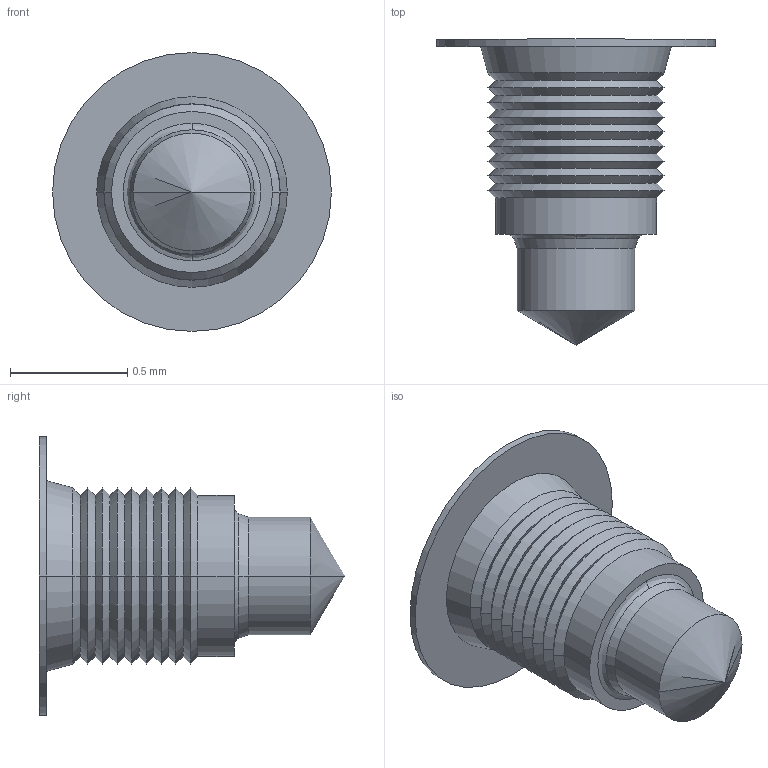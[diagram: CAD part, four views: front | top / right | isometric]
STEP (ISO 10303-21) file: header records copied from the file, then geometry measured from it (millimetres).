
FILE_DESCRIPTION((''),'2;1');
FILE_NAME('0005-3D.stp','2011-04-18T11:01:32',(''),(''),'Mechanical Desktop 2009','Mechanical Desktop 2009',', , ');
FILE_SCHEMA(('CONFIG_CONTROL_DESIGN'));
Length unit declared in the file: millimetre
Products named in the file (1): Product
Bounding box: 1.19 x 1.3 x 1.19 mm (x, y, z)
Volume: 0.4 mm3; surface area: 5 mm2
Topology: 1 solids, 1 shells, 51 faces, 105 edges, 56 vertices
Faces by surface type: cone 40, cylinder 6, plane 3, bspline 2
Entity records: 1485 total; most frequent: CARTESIAN_POINT 299, DIRECTION 260, ORIENTED_EDGE 206, AXIS2_PLACEMENT_3D 107, EDGE_CURVE 103, CIRCLE 57, VERTEX_POINT 56, EDGE_LOOP 53
